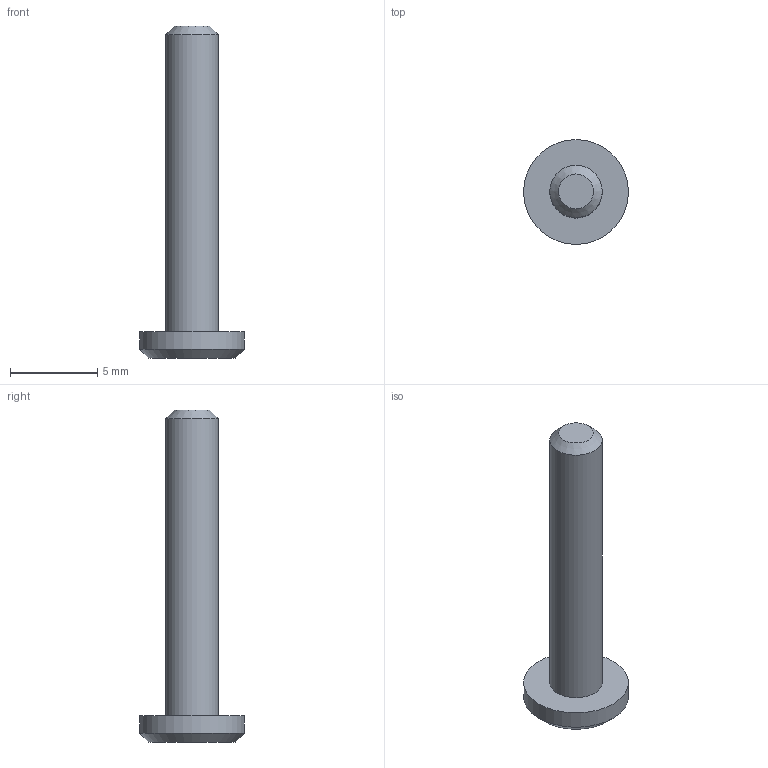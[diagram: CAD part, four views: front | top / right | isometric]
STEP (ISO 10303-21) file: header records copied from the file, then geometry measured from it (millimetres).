
FILE_DESCRIPTION(/* description */ (''),/* implementation_level */ '2;1');
FILE_NAME(/* name */ 'D:\STEP files\pin-holder.stp',/* time_stamp */ '2020-08-13T23:47:54+02:00',/* author */ ('Vít Budina'),/* organization */ (''),/* preprocessor_version */ 'ST-DEVELOPER v18',/* originating_system */ 'Autodesk Inventor 2020',/* authorisation */ '');
FILE_SCHEMA (('AUTOMOTIVE_DESIGN { 1 0 10303 214 3 1 1 }'));
Length unit declared in the file: millimetre
Products named in the file (1): pin-holder
Bounding box: 6 x 6 x 19 mm (x, y, z)
Volume: 162.8 mm3; surface area: 240.8 mm2
Topology: 1 solids, 1 shells, 7 faces, 14 edges, 10 vertices
Faces by surface type: plane 3, cone 2, cylinder 2
Full cylindrical faces by diameter (mm): 3 x1, 6 x1
Entity records: 235 total; most frequent: DIRECTION 40, CARTESIAN_POINT 32, ORIENTED_EDGE 28, AXIS2_PLACEMENT_3D 18, EDGE_CURVE 14, CIRCLE 10, VERTEX_POINT 10, EDGE_LOOP 8
